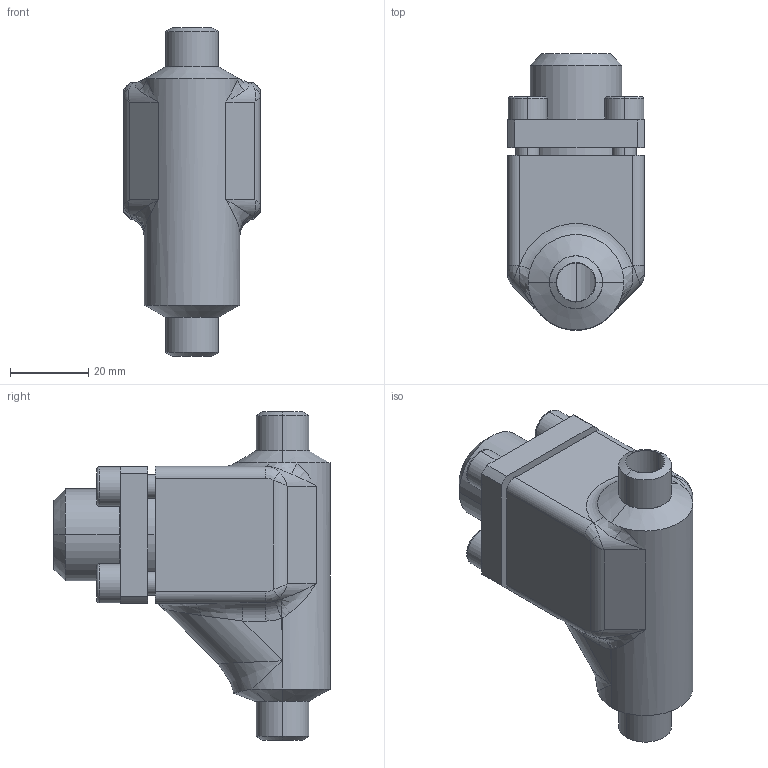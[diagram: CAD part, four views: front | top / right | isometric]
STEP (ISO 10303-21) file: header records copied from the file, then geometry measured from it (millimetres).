
FILE_DESCRIPTION (( 'STEP AP214' ), '1' );
FILE_NAME ('RV98300-DN008_R1_PS40.STEP', '2006-05-02T09:25:01', ( 'Herr Grams' ), ( 'AWP GmbH' ), 'SwSTEP 2.0', 'SolidWorks 2002296', '' );
FILE_SCHEMA (( 'AUTOMOTIVE_DESIGN' ));
Length unit declared in the file: millimetre
Products named in the file (5): RV98300-DN008_R1_PS40; RV98300E10_Deck+Schr-DN6-15_Standard; Deckel98300E10-DN6-15_PS40_Standard; Zylinderschraube-DIN912_M 6x 18; Gehäuse96300E07-DN08_PS40_R1_Standard
Assembly tree (7 placements, depth 3):
  RV98300-DN008_R1_PS40
    RV98300E10_Deck+Schr-DN6-15_Standard
      Zylinderschraube-DIN912_M 6x 18  x4
      Deckel98300E10-DN6-15_PS40_Standard
    Gehäuse96300E07-DN08_PS40_R1_Standard
Bounding box: 35 x 70.7 x 84 mm (x, y, z)
Volume: 65685.2 mm3; surface area: 23915.1 mm2
Topology: 6 solids, 6 shells, 197 faces, 456 edges, 278 vertices
Faces by surface type: plane 72, cylinder 68, bspline 25, cone 21, torus 11
Entity records: 15669 total; most frequent: CARTESIAN_POINT 11974, ORIENTED_EDGE 668, DIRECTION 643, EDGE_CURVE 334, AXIS2_PLACEMENT_3D 261, VERTEX_POINT 206, EDGE_LOOP 164, ADVANCED_FACE 143
